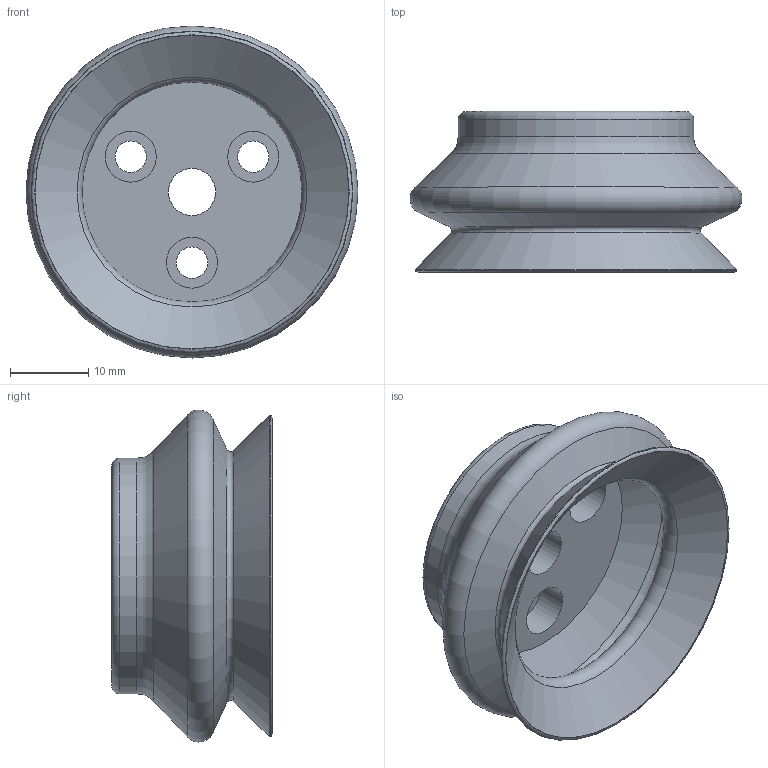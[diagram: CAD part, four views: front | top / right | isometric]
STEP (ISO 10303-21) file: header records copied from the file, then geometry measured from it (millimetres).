
FILE_DESCRIPTION (( 'STEP AP214' ), '1' );
FILE_NAME ('15B.040.003.STEP', '2025-03-21T12:33:00', ( '' ), ( '' ), 'SwSTEP 2.0', 'SolidWorks 2018', '' );
FILE_SCHEMA (( 'AUTOMOTIVE_DESIGN' ));
Length unit declared in the file: millimetre
Products named in the file (1): 15B.040.003
Bounding box: 42.3 x 20.5 x 42.3 mm (x, y, z)
Volume: 8348.9 mm3; surface area: 7111.9 mm2
Topology: 1 solids, 1 shells, 30 faces, 56 edges, 33 vertices
Faces by surface type: cylinder 9, plane 7, torus 7, cone 7
Full cylindrical faces by diameter (mm): 4 x3, 6 x1, 6.5 x3, 10.2 x1, 30 x1
Entity records: 684 total; most frequent: DIRECTION 128, CARTESIAN_POINT 97, ORIENTED_EDGE 66, EDGE_LOOP 66, AXIS2_PLACEMENT_3D 64, FACE_OUTER_BOUND 46, EDGE_CURVE 33, CIRCLE 33
